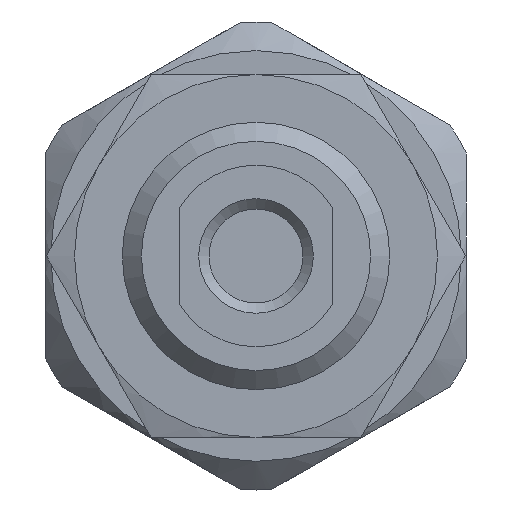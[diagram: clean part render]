
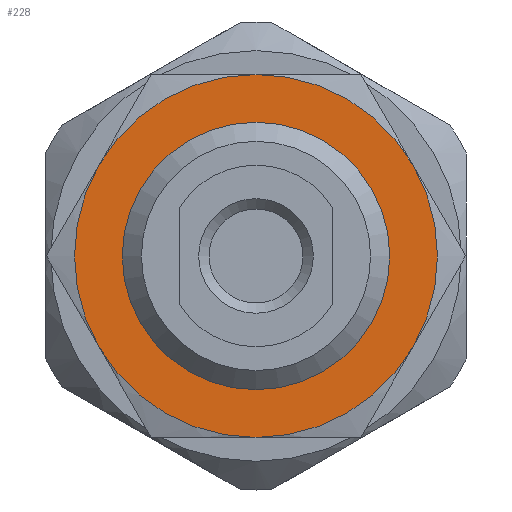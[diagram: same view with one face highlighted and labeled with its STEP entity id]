
A CAD part, left-side view. The second image highlights one B-rep face of the part: STEP entity #228.
In plain terms, the highlighted planar face has unit normal (-1, 0, 0).
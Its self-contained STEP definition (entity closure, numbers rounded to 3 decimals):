
#228 = ADVANCED_FACE( '', ( #356, #357 ), #358, .F. );
#356 = FACE_BOUND( '', #592, .T. );
#357 = FACE_OUTER_BOUND( '', #593, .T. );
#358 = PLANE( '', #594 );
#592 = EDGE_LOOP( '', ( #974 ) );
#593 = EDGE_LOOP( '', ( #975, #976, #977, #978, #979, #980 ) );
#594 = AXIS2_PLACEMENT_3D( '', #981, #982, #983 );
#974 = ORIENTED_EDGE( '', *, *, #1601, .F. );
#975 = ORIENTED_EDGE( '', *, *, #1602, .F. );
#976 = ORIENTED_EDGE( '', *, *, #1603, .F. );
#977 = ORIENTED_EDGE( '', *, *, #1604, .F. );
#978 = ORIENTED_EDGE( '', *, *, #1544, .F. );
#979 = ORIENTED_EDGE( '', *, *, #1600, .F. );
#980 = ORIENTED_EDGE( '', *, *, #1605, .F. );
#981 = CARTESIAN_POINT( '', ( 4.5, 4.75, 0. ) );
#982 = DIRECTION( '', ( 1., 0., 0. ) );
#983 = DIRECTION( '', ( 0., 0., -1. ) );
#1544 = EDGE_CURVE( '', #1789, #1790, #1791, .T. );
#1600 = EDGE_CURVE( '', #1786, #1789, #1884, .T. );
#1601 = EDGE_CURVE( '', #1885, #1885, #1886, .F. );
#1602 = EDGE_CURVE( '', #1804, #1887, #1888, .T. );
#1603 = EDGE_CURVE( '', #1813, #1804, #1889, .T. );
#1604 = EDGE_CURVE( '', #1790, #1813, #1890, .T. );
#1605 = EDGE_CURVE( '', #1887, #1786, #1891, .T. );
#1786 = VERTEX_POINT( '', #2261 );
#1789 = VERTEX_POINT( '', #2274 );
#1790 = VERTEX_POINT( '', #2275 );
#1791 = CIRCLE( '', #2276, 9.5 );
#1804 = VERTEX_POINT( '', #2311 );
#1813 = VERTEX_POINT( '', #2341 );
#1884 = CIRCLE( '', #2504, 9.5 );
#1885 = VERTEX_POINT( '', #2505 );
#1886 = CIRCLE( '', #2506, 7. );
#1887 = VERTEX_POINT( '', #2507 );
#1888 = CIRCLE( '', #2508, 9.5 );
#1889 = CIRCLE( '', #2509, 9.5 );
#1890 = CIRCLE( '', #2510, 9.5 );
#1891 = CIRCLE( '', #2511, 9.5 );
#2261 = CARTESIAN_POINT( '', ( 4.5, 0., 9.5 ) );
#2274 = CARTESIAN_POINT( '', ( 4.5, -8.227, 4.75 ) );
#2275 = CARTESIAN_POINT( '', ( 4.5, -8.227, -4.75 ) );
#2276 = AXIS2_PLACEMENT_3D( '', #2870, #2871, #2872 );
#2311 = CARTESIAN_POINT( '', ( 4.5, 8.227, -4.75 ) );
#2341 = CARTESIAN_POINT( '', ( 4.5, 0., -9.5 ) );
#2504 = AXIS2_PLACEMENT_3D( '', #2936, #2937, #2938 );
#2505 = CARTESIAN_POINT( '', ( 4.5, 0., -7. ) );
#2506 = AXIS2_PLACEMENT_3D( '', #2939, #2940, #2941 );
#2507 = CARTESIAN_POINT( '', ( 4.5, 8.227, 4.75 ) );
#2508 = AXIS2_PLACEMENT_3D( '', #2942, #2943, #2944 );
#2509 = AXIS2_PLACEMENT_3D( '', #2945, #2946, #2947 );
#2510 = AXIS2_PLACEMENT_3D( '', #2948, #2949, #2950 );
#2511 = AXIS2_PLACEMENT_3D( '', #2951, #2952, #2953 );
#2870 = CARTESIAN_POINT( '', ( 4.5, 0., 0. ) );
#2871 = DIRECTION( '', ( 1., 0., 0. ) );
#2872 = DIRECTION( '', ( 0., 0., -1. ) );
#2936 = CARTESIAN_POINT( '', ( 4.5, 0., 0. ) );
#2937 = DIRECTION( '', ( 1., 0., 0. ) );
#2938 = DIRECTION( '', ( 0., 0., -1. ) );
#2939 = CARTESIAN_POINT( '', ( 4.5, 0., 0. ) );
#2940 = DIRECTION( '', ( 1., 0., 0. ) );
#2941 = DIRECTION( '', ( 0., 0., -1. ) );
#2942 = CARTESIAN_POINT( '', ( 4.5, 0., 0. ) );
#2943 = DIRECTION( '', ( 1., 0., 0. ) );
#2944 = DIRECTION( '', ( 0., 0., -1. ) );
#2945 = CARTESIAN_POINT( '', ( 4.5, 0., 0. ) );
#2946 = DIRECTION( '', ( 1., 0., 0. ) );
#2947 = DIRECTION( '', ( 0., 0., -1. ) );
#2948 = CARTESIAN_POINT( '', ( 4.5, 0., 0. ) );
#2949 = DIRECTION( '', ( 1., 0., 0. ) );
#2950 = DIRECTION( '', ( 0., 0., -1. ) );
#2951 = CARTESIAN_POINT( '', ( 4.5, 0., 0. ) );
#2952 = DIRECTION( '', ( 1., 0., 0. ) );
#2953 = DIRECTION( '', ( 0., 0., -1. ) );
